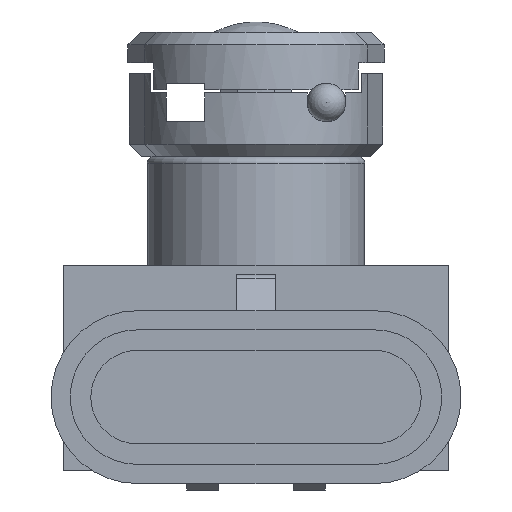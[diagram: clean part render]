
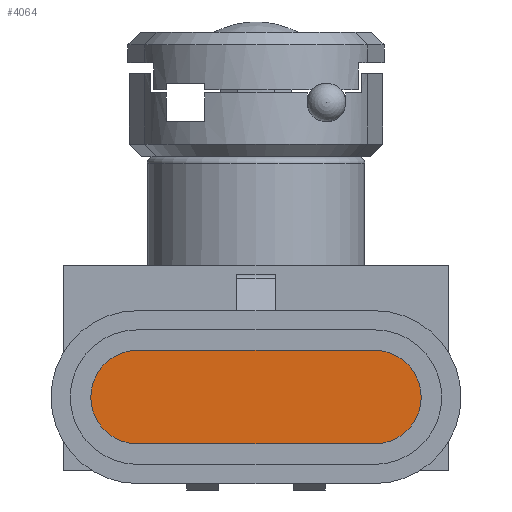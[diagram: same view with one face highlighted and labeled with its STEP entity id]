
A CAD part, front view. The second image highlights one B-rep face of the part: STEP entity #4064.
In plain terms, the highlighted planar face has unit normal (0, -1, 0) as drawn and (0, 0, -1) by its records, which use the part's own axes.
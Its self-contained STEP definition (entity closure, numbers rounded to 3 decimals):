
#142=LINE('',#6114,#580);
#146=LINE('',#6126,#584);
#580=VECTOR('',#4936,18.5);
#584=VECTOR('',#4948,18.5);
#945=PLANE('',#4353);
#1161=FACE_OUTER_BOUND('',#1402,.T.);
#1402=EDGE_LOOP('',(#2982,#2983,#2984,#2985));
#1636=CIRCLE('',#4348,3.65);
#1638=CIRCLE('',#4352,3.65);
#1837=VERTEX_POINT('',#6111);
#1838=VERTEX_POINT('',#6113);
#1840=VERTEX_POINT('',#6119);
#1842=VERTEX_POINT('',#6125);
#2264=EDGE_CURVE('',#1838,#1837,#142,.T.);
#2267=EDGE_CURVE('',#1840,#1838,#1636,.T.);
#2270=EDGE_CURVE('',#1842,#1840,#146,.T.);
#2273=EDGE_CURVE('',#1837,#1842,#1638,.T.);
#2982=ORIENTED_EDGE('',*,*,#2267,.T.);
#2983=ORIENTED_EDGE('',*,*,#2264,.T.);
#2984=ORIENTED_EDGE('',*,*,#2273,.T.);
#2985=ORIENTED_EDGE('',*,*,#2270,.T.);
#4064=ADVANCED_FACE('',(#1161),#945,.F.);
#4348=AXIS2_PLACEMENT_3D('',#6120,#4942,#4943);
#4352=AXIS2_PLACEMENT_3D('',#6130,#4954,#4955);
#4353=AXIS2_PLACEMENT_3D('',#6131,#4956,#4957);
#4936=DIRECTION('',(1.,0.,0.));
#4942=DIRECTION('center_axis',(0.,0.,-1.));
#4943=DIRECTION('ref_axis',(1.,0.,0.));
#4948=DIRECTION('',(-1.,0.,0.));
#4954=DIRECTION('center_axis',(0.,0.,-1.));
#4955=DIRECTION('ref_axis',(1.,0.,0.));
#4956=DIRECTION('center_axis',(0.,0.,1.));
#4957=DIRECTION('ref_axis',(1.,0.,0.));
#6111=CARTESIAN_POINT('',(9.25,-2.1,-60.5));
#6113=CARTESIAN_POINT('',(-9.25,-2.1,-60.5));
#6114=CARTESIAN_POINT('',(-9.25,-2.1,-60.5));
#6119=CARTESIAN_POINT('',(-9.25,-9.4,-60.5));
#6120=CARTESIAN_POINT('Origin',(-9.25,-5.75,-60.5));
#6125=CARTESIAN_POINT('',(9.25,-9.4,-60.5));
#6126=CARTESIAN_POINT('',(9.25,-9.4,-60.5));
#6130=CARTESIAN_POINT('Origin',(9.25,-5.75,-60.5));
#6131=CARTESIAN_POINT('Origin',(-9.25,-5.75,-60.5));
